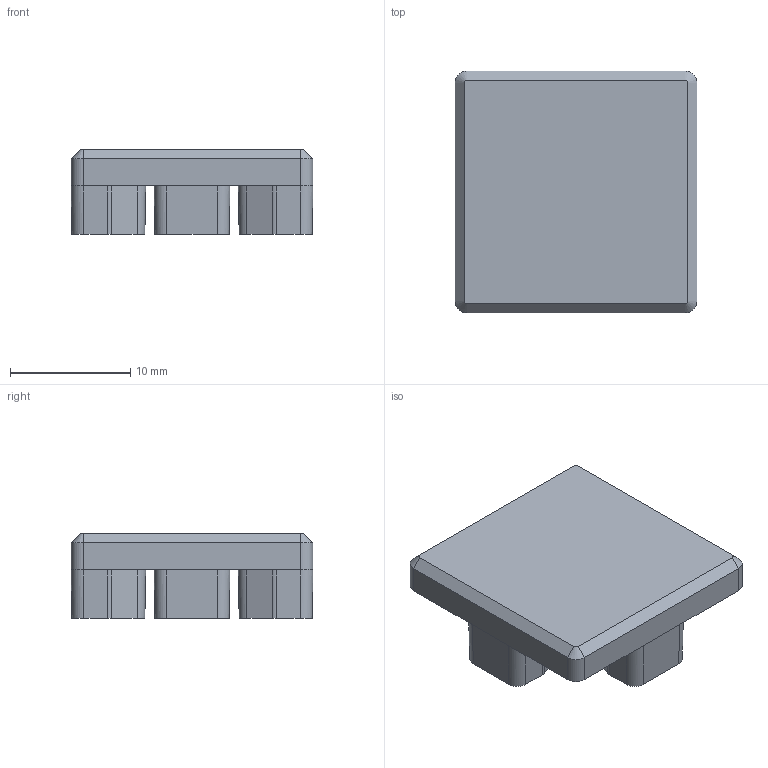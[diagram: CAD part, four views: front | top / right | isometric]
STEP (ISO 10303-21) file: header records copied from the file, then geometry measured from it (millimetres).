
FILE_DESCRIPTION (( 'STEP AP203' ), '1' );
FILE_NAME ('Endcap.STEP', '2025-03-11T00:33:57', ( '' ), ( '' ), 'SwSTEP 2.0', 'SolidWorks 2024', '' );
FILE_SCHEMA (( 'CONFIG_CONTROL_DESIGN' ));
Length unit declared in the file: millimetre
Products named in the file (1): Endcap
Bounding box: 20.1 x 20.1 x 7 mm (x, y, z)
Volume: 1735 mm3; surface area: 1347.2 mm2
Topology: 1 solids, 1 shells, 70 faces, 188 edges, 120 vertices
Faces by surface type: plane 38, cylinder 28, cone 4
Entity records: 2211 total; most frequent: CARTESIAN_POINT 523, ORIENTED_EDGE 376, DIRECTION 294, EDGE_CURVE 188, LINE 128, VECTOR 128, VERTEX_POINT 120, AXIS2_PLACEMENT_3D 83
